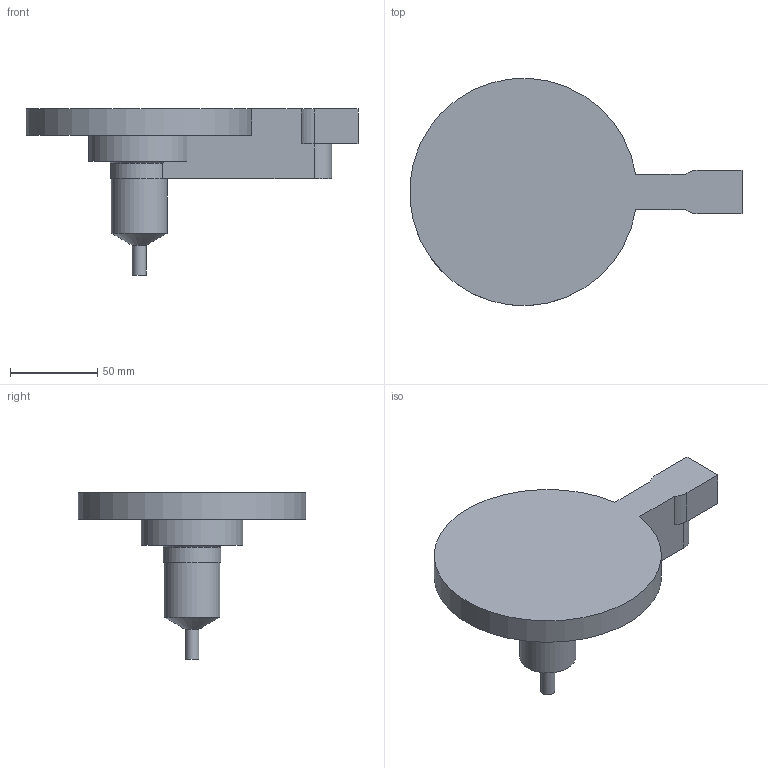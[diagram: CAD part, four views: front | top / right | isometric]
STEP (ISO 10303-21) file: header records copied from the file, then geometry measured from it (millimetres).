
FILE_DESCRIPTION( ( 'STEP AP214' ), '1' );
FILE_NAME( 'D:/PROIECTE_YUDO_2009/PROIECTE YUDO 3D/BLS/YUEU09-BLS18TLC050/YUEU09-BLS18TLC050_CutOut.step', '2009-03-24T06:50:57', ( ' ' ), ( ' ' ), 'XStep 1.0', ' ', ' ' );
FILE_SCHEMA( ( 'automotive_design' ) );
Length unit declared in the file: millimetre
Products named in the file (1): 1
Bounding box: 189.76 x 129.83 x 95 mm (x, y, z)
Volume: 340729.1 mm3; surface area: 49095.4 mm2
Topology: 1 solids, 1 shells, 21 faces, 52 edges, 34 vertices
Faces by surface type: plane 11, cylinder 8, cone 2
Full cylindrical faces by diameter (mm): 8 x1, 32 x1
Entity records: 798 total; most frequent: CARTESIAN_POINT 111, DIRECTION 108, ORIENTED_EDGE 98, EDGE_CURVE 49, AXIS2_PLACEMENT_3D 39, VERTEX_POINT 34, LINE 30, VECTOR 30
